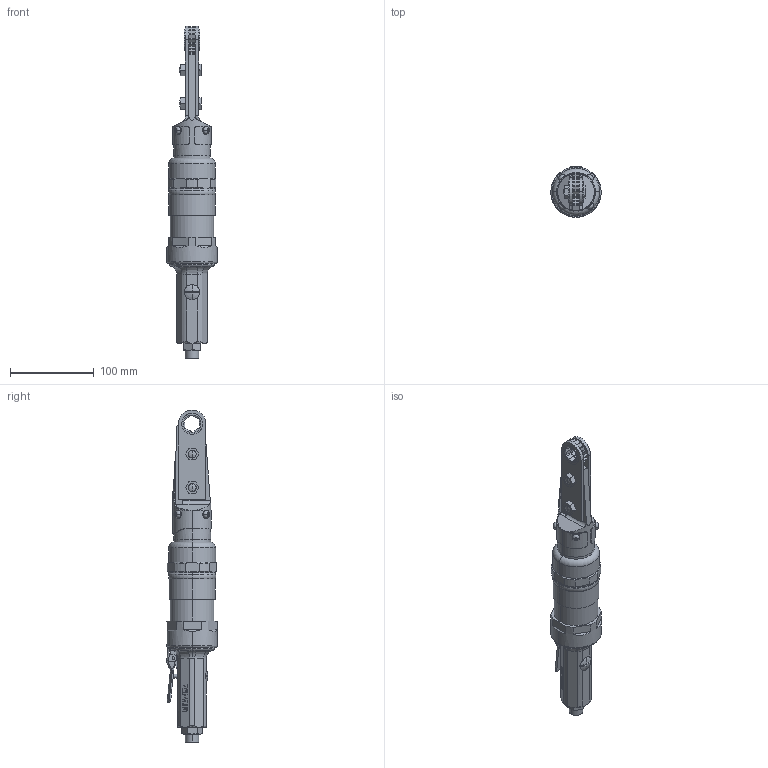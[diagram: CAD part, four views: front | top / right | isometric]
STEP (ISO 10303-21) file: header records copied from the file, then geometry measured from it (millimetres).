
FILE_DESCRIPTION (( 'STEP AP203' ), '1' );
FILE_NAME ('URW-10N.STEP', '2006-02-14T07:29:57', ( '' ), ( '' ), 'SwSTEP 2.0', 'SolidWorks 2004073', '' );
FILE_SCHEMA (( 'CONFIG_CONTROL_DESIGN' ));
Length unit declared in the file: millimetre
Products named in the file (7): 2146561_蹬怮椔; 2033811_蹬怮椔; URW-10N; 2030251_蹬怮椔; 2030112_蹬怮椔; 2031071_蹬怮椔; 2031001_蹬怮椔
Assembly tree (6 placements, depth 2):
  URW-10N
    2031071_蹬怮椔
    2033811_蹬怮椔
    2030251_蹬怮椔
    2031001_蹬怮椔
    2146561_蹬怮椔
    2030112_蹬怮椔
Bounding box: 60 x 60.33 x 395.6 mm (x, y, z)
Volume: 540378.7 mm3; surface area: 77461.6 mm2
Topology: 6 solids, 6 shells, 698 faces, 1893 edges, 1243 vertices
Faces by surface type: plane 385, cylinder 209, bspline 41, torus 39, cone 18, sphere 6
Entity records: 29690 total; most frequent: CARTESIAN_POINT 11660, ORIENTED_EDGE 3786, DIRECTION 3411, EDGE_CURVE 1893, VERTEX_POINT 1243, AXIS2_PLACEMENT_3D 1190, VECTOR 1031, LINE 1031
